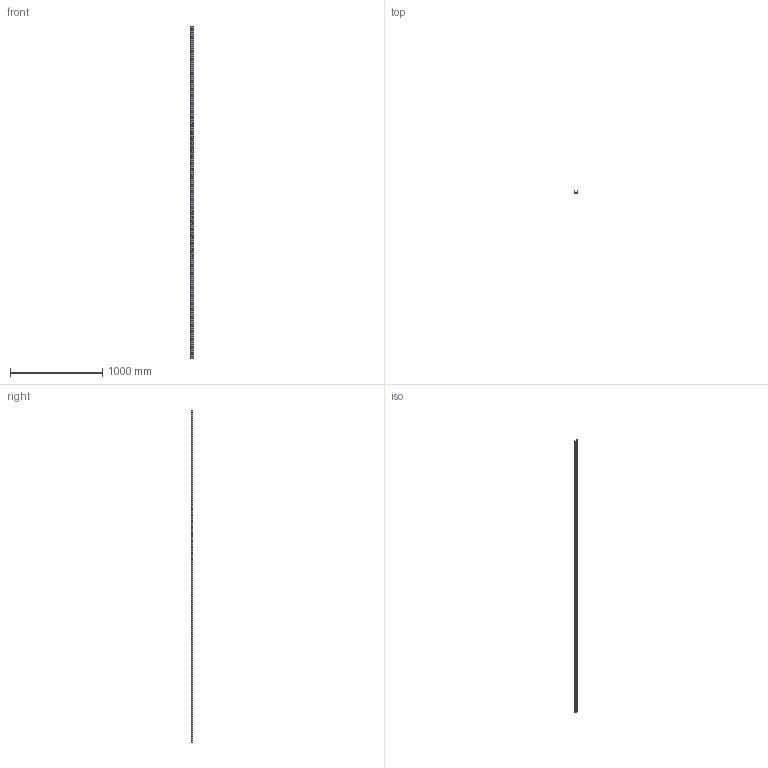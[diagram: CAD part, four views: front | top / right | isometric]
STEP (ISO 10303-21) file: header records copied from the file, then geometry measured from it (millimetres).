
FILE_DESCRIPTION(('STEP AP214'),'1');
FILE_NAME('rail_tex40-3600.stp','2019-03-08T08:34:14',('TraceParts'),('TraceParts S.A.'),'Spatial InterOp 3D',' ',' ');
FILE_SCHEMA(('automotive_design'));
Length unit declared in the file: millimetre
Products named in the file (1): rail_tex40-3600
Bounding box: 39.53 x 21 x 3600 mm (x, y, z)
Volume: 703860.6 mm3; surface area: 495653.5 mm2
Topology: 1 solids, 1 shells, 777 faces, 2013 edges, 1342 vertices
Faces by surface type: plane 547, bspline 128, cylinder 102
Entity records: 49520 total; most frequent: CARTESIAN_POINT 24717, ORIENTED_EDGE 4026, DIRECTION 3261, EDGE_CURVE 2013, LINE 1553, VECTOR 1553, VERTEX_POINT 1342, EDGE_LOOP 971
